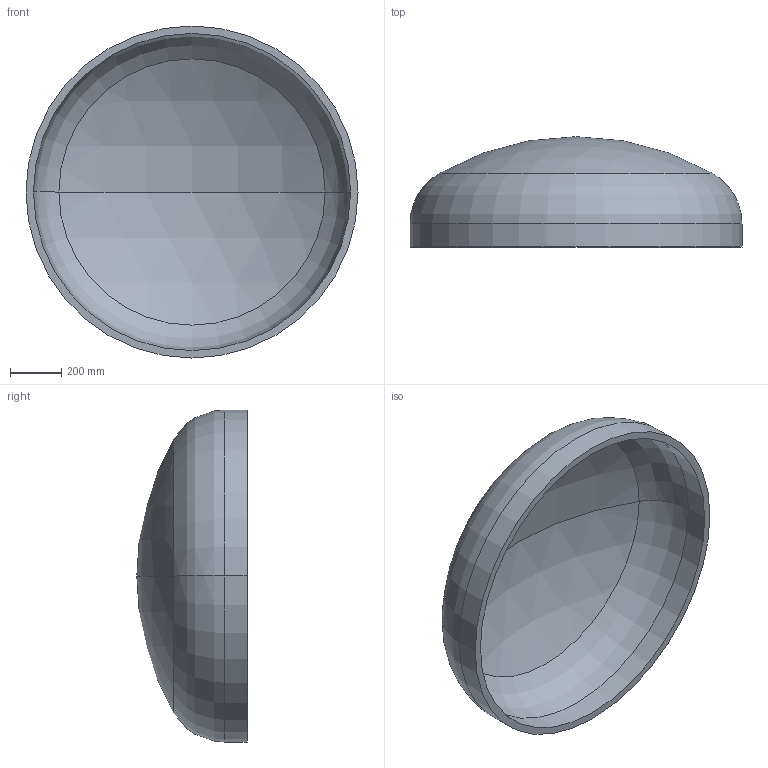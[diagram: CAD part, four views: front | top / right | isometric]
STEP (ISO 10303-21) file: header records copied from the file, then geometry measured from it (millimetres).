
FILE_DESCRIPTION (( 'STEP AP203' ), '1' );
FILE_NAME ('DIN 28013 Korbbogenform_-_Boden DIN 28013 - 1300 x 90 - I - s=29.step', '2016-07-01T09:47:58', ( '' ), ( '' ), 'SwSTEP 2.0', 'SolidWorks 2013', '' );
FILE_SCHEMA (( 'CONFIG_CONTROL_DESIGN' ));
Length unit declared in the file: millimetre
Products named in the file (1): DIN 28013 Korbbogenform_-_Boden DIN 28013 - 1300 x 90 - I - s=29
Bounding box: 1300 x 432.12 x 1300 mm (x, y, z)
Volume: 62182349.5 mm3; surface area: 4405993.9 mm2
Topology: 1 solids, 1 shells, 13 faces, 24 edges, 14 vertices
Faces by surface type: torus 4, cylinder 4, sphere 4, plane 1
Entity records: 407 total; most frequent: DIRECTION 72, CARTESIAN_POINT 52, ORIENTED_EDGE 48, AXIS2_PLACEMENT_3D 34, EDGE_CURVE 24, CIRCLE 20, VERTEX_POINT 14, EDGE_LOOP 14
